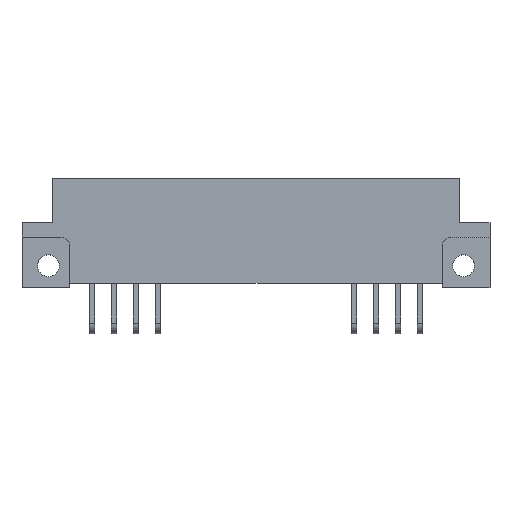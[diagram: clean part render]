
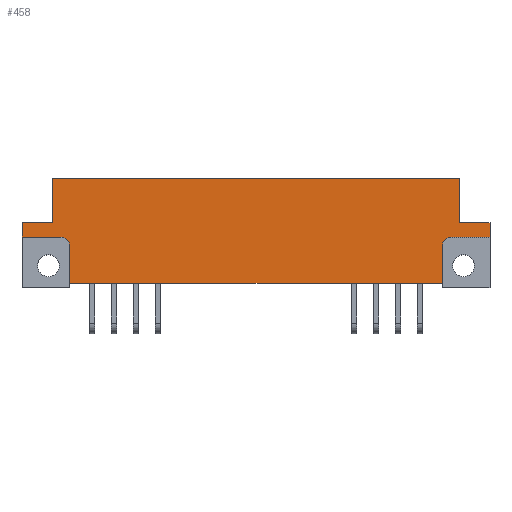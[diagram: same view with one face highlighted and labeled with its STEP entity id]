
A CAD part, top view. The second image highlights one B-rep face of the part: STEP entity #458.
In plain terms, the highlighted planar face has unit normal (0, 0, 1).
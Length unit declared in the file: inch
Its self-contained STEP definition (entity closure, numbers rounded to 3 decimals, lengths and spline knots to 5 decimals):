
#86=CIRCLE('',#5479,0.04);
#87=CIRCLE('',#5480,0.04);
#175=FACE_OUTER_BOUND('',#1078,.T.);
#458=ADVANCED_FACE('',(#175),#746,.T.);
#746=PLANE('',#5481);
#1078=EDGE_LOOP('',(#1572,#1573,#1574,#1575,#1576,#1577,#1578,#1579,#1580,
#1581,#1582,#1583,#1584,#1585));
#1572=ORIENTED_EDGE('',*,*,#3563,.F.);
#1573=ORIENTED_EDGE('',*,*,#3564,.F.);
#1574=ORIENTED_EDGE('',*,*,#3565,.F.);
#1575=ORIENTED_EDGE('',*,*,#3566,.F.);
#1576=ORIENTED_EDGE('',*,*,#3567,.F.);
#1577=ORIENTED_EDGE('',*,*,#3568,.T.);
#1578=ORIENTED_EDGE('',*,*,#3569,.F.);
#1579=ORIENTED_EDGE('',*,*,#3441,.F.);
#1580=ORIENTED_EDGE('',*,*,#3537,.F.);
#1581=ORIENTED_EDGE('',*,*,#3570,.T.);
#1582=ORIENTED_EDGE('',*,*,#3527,.F.);
#1583=ORIENTED_EDGE('',*,*,#3571,.F.);
#1584=ORIENTED_EDGE('',*,*,#3525,.F.);
#1585=ORIENTED_EDGE('',*,*,#3572,.F.);
#2943=VERTEX_POINT('',#7413);
#2944=VERTEX_POINT('',#7414);
#3027=VERTEX_POINT('',#7581);
#3028=VERTEX_POINT('',#7583);
#3029=VERTEX_POINT('',#7587);
#3030=VERTEX_POINT('',#7588);
#3038=VERTEX_POINT('',#7607);
#3056=VERTEX_POINT('',#7661);
#3057=VERTEX_POINT('',#7662);
#3058=VERTEX_POINT('',#7664);
#3059=VERTEX_POINT('',#7666);
#3060=VERTEX_POINT('',#7668);
#3061=VERTEX_POINT('',#7670);
#3062=VERTEX_POINT('',#7672);
#3441=EDGE_CURVE('',#2943,#2944,#4192,.T.);
#3525=EDGE_CURVE('',#3027,#3028,#4276,.T.);
#3527=EDGE_CURVE('',#3029,#3030,#4278,.T.);
#3537=EDGE_CURVE('',#3038,#2943,#4288,.T.);
#3563=EDGE_CURVE('',#3056,#3057,#4309,.T.);
#3564=EDGE_CURVE('',#3058,#3056,#4310,.T.);
#3565=EDGE_CURVE('',#3059,#3058,#4311,.T.);
#3566=EDGE_CURVE('',#3060,#3059,#4312,.T.);
#3567=EDGE_CURVE('',#3061,#3060,#4313,.T.);
#3568=EDGE_CURVE('',#3061,#3062,#86,.T.);
#3569=EDGE_CURVE('',#2944,#3062,#4314,.T.);
#3570=EDGE_CURVE('',#3038,#3030,#87,.T.);
#3571=EDGE_CURVE('',#3028,#3029,#4315,.T.);
#3572=EDGE_CURVE('',#3057,#3027,#4316,.T.);
#4192=LINE('',#7412,#4861);
#4276=LINE('',#7582,#4945);
#4278=LINE('',#7586,#4947);
#4288=LINE('',#7608,#4957);
#4309=LINE('',#7660,#4978);
#4310=LINE('',#7663,#4979);
#4311=LINE('',#7665,#4980);
#4312=LINE('',#7667,#4981);
#4313=LINE('',#7669,#4982);
#4314=LINE('',#7673,#4983);
#4315=LINE('',#7675,#4984);
#4316=LINE('',#7676,#4985);
#4861=VECTOR('',#5918,1.);
#4945=VECTOR('',#6004,1.);
#4947=VECTOR('',#6008,1.);
#4957=VECTOR('',#6022,1.);
#4978=VECTOR('',#6071,1.);
#4979=VECTOR('',#6072,1.);
#4980=VECTOR('',#6073,1.);
#4981=VECTOR('',#6074,1.);
#4982=VECTOR('',#6075,1.);
#4983=VECTOR('',#6078,1.);
#4984=VECTOR('',#6081,1.);
#4985=VECTOR('',#6082,1.);
#5479=AXIS2_PLACEMENT_3D('',#7671,#6076,#6077);
#5480=AXIS2_PLACEMENT_3D('',#7674,#6079,#6080);
#5481=AXIS2_PLACEMENT_3D('',#7677,#6083,#6084);
#5918=DIRECTION('',(-1.,0.,0.));
#6004=DIRECTION('',(1.,0.,0.));
#6008=DIRECTION('',(-1.,0.,0.));
#6022=DIRECTION('',(0.,-1.,0.));
#6071=DIRECTION('',(1.,0.,0.));
#6072=DIRECTION('',(0.,1.,0.));
#6073=DIRECTION('',(1.,0.,0.));
#6074=DIRECTION('',(0.,1.,0.));
#6075=DIRECTION('',(-1.,0.,0.));
#6076=DIRECTION('',(0.,0.,-1.));
#6077=DIRECTION('',(1.,0.,0.));
#6078=DIRECTION('',(0.,1.,0.));
#6079=DIRECTION('',(0.,0.,-1.));
#6080=DIRECTION('',(1.,0.,0.));
#6081=DIRECTION('',(0.,-1.,0.));
#6082=DIRECTION('',(0.,-1.,0.));
#6083=DIRECTION('',(0.,0.,1.));
#6084=DIRECTION('',(1.,0.,0.));
#7412=CARTESIAN_POINT('',(1.75,-0.081,0.3705));
#7413=CARTESIAN_POINT('',(3.4025,-0.081,0.3705));
#7414=CARTESIAN_POINT('',(1.6975,-0.081,0.3705));
#7581=CARTESIAN_POINT('',(3.4825,0.196,0.3705));
#7582=CARTESIAN_POINT('',(1.75,0.196,0.3705));
#7583=CARTESIAN_POINT('',(3.621,0.196,0.3705));
#7586=CARTESIAN_POINT('',(1.75,0.131,0.3705));
#7587=CARTESIAN_POINT('',(3.621,0.131,0.3705));
#7588=CARTESIAN_POINT('',(3.4425,0.131,0.3705));
#7607=CARTESIAN_POINT('',(3.4025,0.091,0.3705));
#7608=CARTESIAN_POINT('',(3.4025,0.0155,0.3705));
#7660=CARTESIAN_POINT('',(1.75,0.401,0.3705));
#7661=CARTESIAN_POINT('',(1.6175,0.401,0.3705));
#7662=CARTESIAN_POINT('',(3.4825,0.401,0.3705));
#7663=CARTESIAN_POINT('',(1.6175,0.2985,0.3705));
#7664=CARTESIAN_POINT('',(1.6175,0.196,0.3705));
#7665=CARTESIAN_POINT('',(3.35,0.196,0.3705));
#7666=CARTESIAN_POINT('',(1.479,0.196,0.3705));
#7667=CARTESIAN_POINT('',(1.479,0.1635,0.3705));
#7668=CARTESIAN_POINT('',(1.479,0.131,0.3705));
#7669=CARTESIAN_POINT('',(3.35,0.131,0.3705));
#7670=CARTESIAN_POINT('',(1.6575,0.131,0.3705));
#7671=CARTESIAN_POINT('',(1.6575,0.091,0.3705));
#7672=CARTESIAN_POINT('',(1.6975,0.091,0.3705));
#7673=CARTESIAN_POINT('',(1.6975,0.0155,0.3705));
#7674=CARTESIAN_POINT('',(3.4425,0.091,0.3705));
#7675=CARTESIAN_POINT('',(3.621,0.1635,0.3705));
#7676=CARTESIAN_POINT('',(3.4825,0.2985,0.3705));
#7677=CARTESIAN_POINT('',(1.75,0.1635,0.3705));
